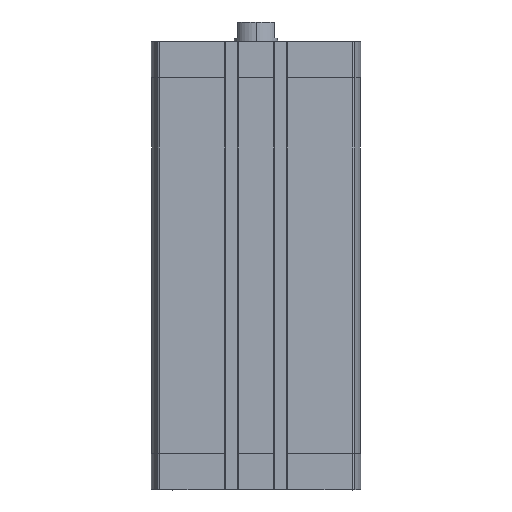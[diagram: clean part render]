
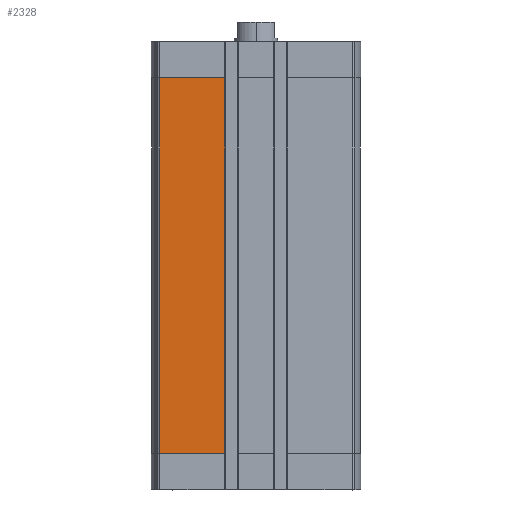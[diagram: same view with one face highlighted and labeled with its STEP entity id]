
A CAD part, left-side view. The second image highlights one B-rep face of the part: STEP entity #2328.
In plain terms, the highlighted planar face has unit normal (-1, 0, 0).
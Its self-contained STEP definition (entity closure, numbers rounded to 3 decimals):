
#953 = VERTEX_POINT ( 'NONE', #14120 ) ;
#1375 = EDGE_LOOP ( 'NONE', ( #2862, #13968, #11212, #1667 ) ) ;
#1667 = ORIENTED_EDGE ( 'NONE', *, *, #2954, .T. ) ;
#2328 = ADVANCED_FACE ( 'NONE', ( #7821 ), #13586, .T. ) ;
#2862 = ORIENTED_EDGE ( 'NONE', *, *, #8306, .T. ) ;
#2954 = EDGE_CURVE ( 'NONE', #13625, #10110, #4030, .T. ) ;
#3356 = DIRECTION ( 'NONE',  ( 0., 0., -1. ) ) ;
#3569 = CARTESIAN_POINT ( 'NONE',  ( -47.5, 0., -16.5 ) ) ;
#3857 = CARTESIAN_POINT ( 'NONE',  ( -47.5, 43.743, -187.5 ) ) ;
#4009 = VECTOR ( 'NONE', #3356, 1000. ) ;
#4030 = LINE ( 'NONE', #3857, #4009 ) ;
#5020 = VERTEX_POINT ( 'NONE', #5788 ) ;
#5788 = CARTESIAN_POINT ( 'NONE',  ( -47.5, 14.3, -16.5 ) ) ;
#7102 = EDGE_CURVE ( 'NONE', #953, #5020, #7899, .T. ) ;
#7821 = FACE_OUTER_BOUND ( 'NONE', #1375, .T. ) ;
#7899 = LINE ( 'NONE', #12972, #12023 ) ;
#8168 = CARTESIAN_POINT ( 'NONE',  ( -47.5, 43.743, -16.5 ) ) ;
#8306 = EDGE_CURVE ( 'NONE', #10110, #953, #14343, .T. ) ;
#9252 = VECTOR ( 'NONE', #10764, 1000. ) ;
#9265 = LINE ( 'NONE', #3569, #9252 ) ;
#9494 = AXIS2_PLACEMENT_3D ( 'NONE', #13568, #13503, #13484 ) ;
#9822 = VECTOR ( 'NONE', #12497, 1000. ) ;
#10110 = VERTEX_POINT ( 'NONE', #10368 ) ;
#10368 = CARTESIAN_POINT ( 'NONE',  ( -47.5, 43.743, -187.5 ) ) ;
#10764 = DIRECTION ( 'NONE',  ( 0., 1., 0. ) ) ;
#11212 = ORIENTED_EDGE ( 'NONE', *, *, #12664, .T. ) ;
#12023 = VECTOR ( 'NONE', #12920, 1000. ) ;
#12468 = CARTESIAN_POINT ( 'NONE',  ( -47.5, 43.743, -187.5 ) ) ;
#12497 = DIRECTION ( 'NONE',  ( 0., -1., 0. ) ) ;
#12664 = EDGE_CURVE ( 'NONE', #5020, #13625, #9265, .T. ) ;
#12920 = DIRECTION ( 'NONE',  ( 0., 0., 1. ) ) ;
#12972 = CARTESIAN_POINT ( 'NONE',  ( -47.5, 14.3, -187.5 ) ) ;
#13484 = DIRECTION ( 'NONE',  ( 0., 0., 1. ) ) ;
#13503 = DIRECTION ( 'NONE',  ( -1., 0., 0. ) ) ;
#13568 = CARTESIAN_POINT ( 'NONE',  ( -47.5, 43.743, -187.5 ) ) ;
#13586 = PLANE ( 'NONE',  #9494 ) ;
#13625 = VERTEX_POINT ( 'NONE', #8168 ) ;
#13968 = ORIENTED_EDGE ( 'NONE', *, *, #7102, .T. ) ;
#14120 = CARTESIAN_POINT ( 'NONE',  ( -47.5, 14.3, -187.5 ) ) ;
#14343 = LINE ( 'NONE', #12468, #9822 ) ;
